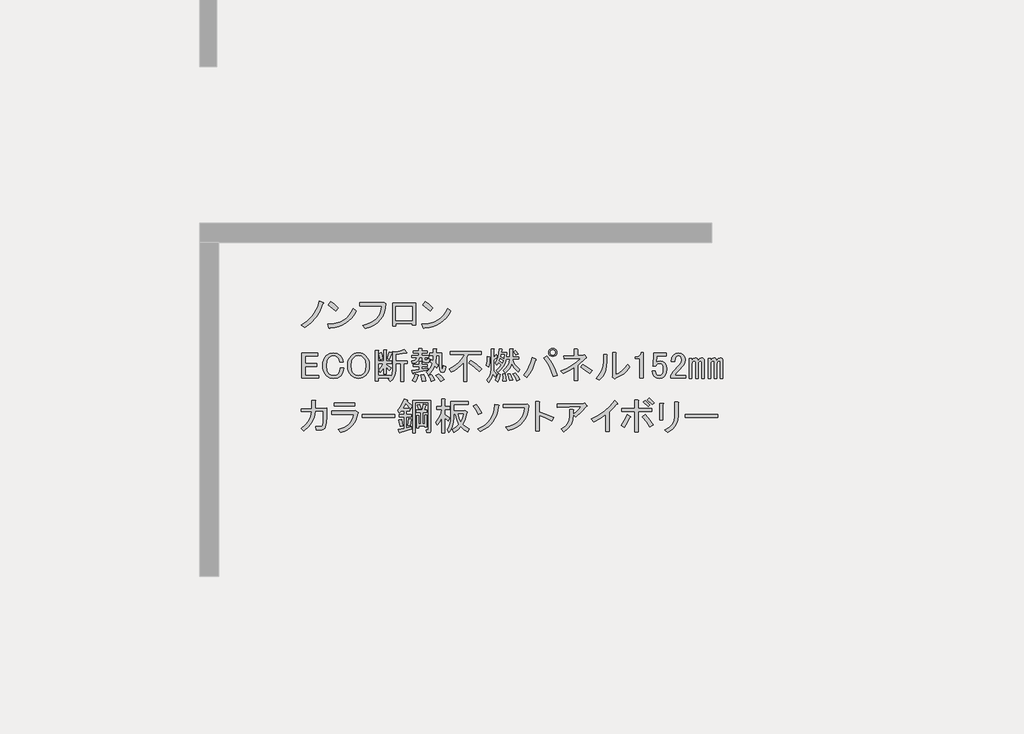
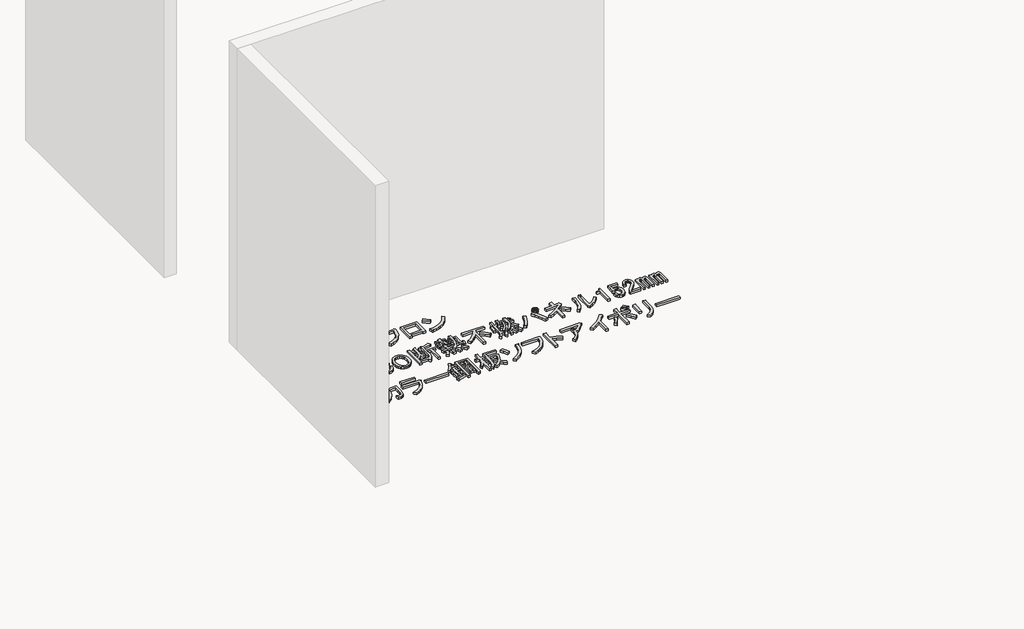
# One storey, part 35 of 117: 1 proxy.
"""IFC4 building model written with IfcOpenShell, lengths in millimetres."""

from ifc_helpers import new_model, si_unit, frame, origin, place, context, project, spatial, polyline, outline, extrude, element, save

model = new_model("IFC4")

# Units and contexts
model_context = context("Model", 3, world=origin())
ifc_project = project(units=[si_unit("LENGTHUNIT", "METRE", prefix="MILLI")], contexts=[model_context])

# Site, building, storey
site = spatial("IfcSite", under=ifc_project)
building = spatial("IfcBuilding", under=site)
storey = spatial("IfcBuildingStorey", under=building, Name="レベル 1", Elevation=500.0)

# Proxy
placement = place(None, origin())
element("IfcBuildingElementProxy", 1, Name="200㎜\u3000MS Pゴシック", ObjectType="200㎜\u3000MS Pゴシック", at=placement, inside=storey, context=model_context, shape_type="SweptSolid", body=[
    extrude(outline(polyline([(24969.6706985, -16633.0496882), (24944.0952502, -16692.8215225), (24915.646156, -16738.7998566), (24873.9782907, -16784.2034615), (24824.8389462, -16821.560858), (24797.2519457, -16799.7211493), (24844.9544673, -16769.2605029), (24884.6107805, -16730.7536481), (24901.9963381, -16706.8305462), (24917.3703435, -16678.7406577), (24930.7327969, -16646.4839827), (24942.0836981, -16610.0605212), (24973.1190736, -16623.8540214), (24976.2800841, -16628.4518548), (24969.6706985, -16633.0496882)])), frame((0.0, 0.0, 500.0), z_axis=(0.0, 0.0, 1.0), x_axis=(1.0, 0.0, 0.0)), (0.0, 0.0, 1.0), 25.0),
    extrude(outline(polyline([(25069.3977052, -16688.2236891), (25010.7753292, -16641.0958967), (25030.3161212, -16616.9572713), (25057.6157571, -16636.7854279), (25091.2374138, -16666.3839804), (25069.3977052, -16688.2236891)])), frame((0.0, 0.0, 500.0), z_axis=(0.0, 0.0, 1.0), x_axis=(1.0, 0.0, 0.0)), (0.0, 0.0, 1.0), 25.0),
    extrude(outline(polyline([(25231.4713328, -16688.2236891), (25214.947869, -16717.965924), (25195.8381239, -16743.9724192), (25174.1420975, -16766.2431748), (25149.8597898, -16784.7781907), (25122.9912008, -16799.577467), (25093.5363306, -16810.6410036), (25061.495179, -16817.9688006), (25026.8677461, -16821.560858), (25021.1204544, -16829.6070664), (25015.3731626, -16823.8597747), (25006.1774958, -16793.9738575), (25042.0082679, -16791.2977748), (25074.7857912, -16784.9937141), (25104.5100658, -16775.0616756), (25131.1810916, -16761.5016591), (25154.7988687, -16744.3136646), (25175.363397, -16723.4976923), (25192.8746766, -16699.053742), (25207.3327074, -16670.9818138), (25231.4713328, -16688.2236891)])), frame((0.0, 0.0, 500.0), z_axis=(0.0, 0.0, 1.0), x_axis=(1.0, 0.0, 0.0)), (0.0, 0.0, 1.0), 25.0),
    extrude(outline(polyline([(25282.2314136, -16803.1695243), (25316.014713, -16793.4889298), (25345.5234641, -16781.1142922), (25370.757667, -16766.0456116), (25391.7173217, -16748.282888), (25408.402428, -16727.8261214), (25420.8129862, -16704.6753118), (25428.9489961, -16678.8304591), (25432.8104577, -16650.2915635), (25260.3917049, -16650.2915635), (25260.3917049, -16625.0034798), (25435.1093744, -16625.0034798), (25451.2017914, -16621.5551047), (25463.8458332, -16633.0496882), (25460.325617, -16669.5449909), (25452.0638851, -16702.5919185), (25439.0606375, -16732.1904711), (25421.3158742, -16758.3406486), (25398.8295952, -16781.042451), (25371.6018005, -16800.2958784), (25339.6324901, -16816.1009308), (25302.921664, -16828.4576081), (25282.2314136, -16803.1695243)])), frame((0.0, 0.0, 500.0), z_axis=(0.0, 0.0, 1.0), x_axis=(1.0, 0.0, 0.0)), (0.0, 0.0, 1.0), 25.0),
    extrude(outline(polyline([(25696.955987, -16802.020066), (25670.5184449, -16802.020066), (25670.5184449, -16789.3760241), (25542.9285679, -16789.3760241), (25542.9285679, -16807.7673577), (25516.4910258, -16807.7673577), (25516.4910258, -16628.4518548), (25696.955987, -16628.4518548), (25696.955987, -16802.020066)]), holes=[polyline([(25542.9285679, -16653.7399386), (25542.9285679, -16764.0879404), (25670.5184449, -16764.0879404), (25670.5184449, -16653.7399386), (25542.9285679, -16653.7399386)])]), frame((0.0, 0.0, 500.0), z_axis=(0.0, 0.0, 1.0), x_axis=(1.0, 0.0, 0.0)), (0.0, 0.0, 1.0), 25.0),
    extrude(outline(polyline([(25973.0099049, -16688.2236891), (25956.4864411, -16717.965924), (25937.376696, -16743.9724192), (25915.6806696, -16766.2431748), (25891.3983619, -16784.7781907), (25864.5297729, -16799.577467), (25835.0749026, -16810.6410036), (25803.0337511, -16817.9688006), (25768.4063182, -16821.560858), (25762.6590264, -16829.6070664), (25756.9117347, -16823.8597747), (25747.7160679, -16793.9738575), (25783.5468399, -16791.2977748), (25816.3243633, -16784.9937141), (25846.0486378, -16775.0616756), (25872.7196637, -16761.5016591), (25896.3374407, -16744.3136646), (25916.9019691, -16723.4976923), (25934.4132486, -16699.053742), (25948.8712795, -16670.9818138), (25973.0099049, -16688.2236891)])), frame((0.0, 0.0, 500.0), z_axis=(0.0, 0.0, 1.0), x_axis=(1.0, 0.0, 0.0)), (0.0, 0.0, 1.0), 25.0),
    extrude(outline(polyline([(25810.9362772, -16688.2236891), (25752.3139013, -16641.0958967), (25771.8546933, -16616.9572713), (25799.1543291, -16636.7854279), (25832.7759859, -16666.3839804), (25810.9362772, -16688.2236891)])), frame((0.0, 0.0, 500.0), z_axis=(0.0, 0.0, 1.0), x_axis=(1.0, 0.0, 0.0)), (0.0, 0.0, 1.0), 25.0),
    extrude(outline(polyline([(24802.9992375, -17021.5551047), (24929.4396562, -17021.5551047), (24929.4396562, -17043.3948134), (24829.4367796, -17043.3948134), (24829.4367796, -17104.316106), (24922.5429061, -17104.316106), (24922.5429061, -17126.1558147), (24829.4367796, -17126.1558147), (24829.4367796, -17196.2727742), (24935.186948, -17196.2727742), (24935.186948, -17218.1124829), (24802.9992375, -17218.1124829), (24802.9992375, -17021.5551047)])), frame((0.0, 0.0, 500.0), z_axis=(0.0, 0.0, 1.0), x_axis=(1.0, 0.0, 0.0)), (0.0, 0.0, 1.0), 25.0),
    extrude(outline(polyline([(24967.2798252, -17120.408523), (24969.0758538, -17096.485421), (24974.4639399, -17075.2922827), (24983.4440832, -17056.8291079), (24996.016284, -17041.0958967), (25021.0170031, -17024.7161152), (25052.3397432, -17019.256188), (25083.0877541, -17024.141386), (25106.3642858, -17038.79698), (25122.1693381, -17062.3608762), (25128.2039944, -17091.6720642), (25100.616994, -17091.6720642), (25095.731796, -17070.4070847), (25085.6740354, -17054.8893969), (25070.4437123, -17044.5442717), (25052.3397432, -17041.0958967), (25032.7989512, -17045.1190009), (25015.5570759, -17057.1883136), (25006.5050914, -17068.8984206), (25000.0393882, -17083.3384911), (24994.8668256, -17120.408523), (25000.0393882, -17157.4785548), (25006.5050914, -17171.9186254), (25015.5570759, -17183.6287323), (25032.2242221, -17194.8359513), (25052.3397432, -17198.5716909), (25072.742629, -17195.4106804), (25087.9729521, -17185.927649), (25100.0422648, -17166.3868571), (25104.0653691, -17139.949315), (25131.6523695, -17139.949315), (25125.3303486, -17174.7204301), (25118.2899162, -17188.8731361), (25108.6632025, -17200.8706076), (25097.8151893, -17209.4197041), (25084.8119417, -17215.5262016), (25052.3397432, -17220.4113996), (25021.0170031, -17214.9514724), (24996.016284, -17198.5716909), (24983.4440832, -17182.9103209), (24974.4639399, -17164.6626695), (24969.0758538, -17143.8287369), (24967.2798252, -17120.408523)])), frame((0.0, 0.0, 500.0), z_axis=(0.0, 0.0, 1.0), x_axis=(1.0, 0.0, 0.0)), (0.0, 0.0, 1.0), 25.0),
    extrude(outline(polyline([(25162.6417667, -17119.2590646), (25164.3659542, -17096.4135799), (25169.5385168, -17076.1543764), (25178.1594544, -17058.4814543), (25190.2287671, -17043.3948134), (25202.9446501, -17032.8341648), (25216.9536738, -17025.2908443), (25232.2558381, -17020.7648521), (25248.8511431, -17019.256188), (25265.446448, -17020.7648521), (25280.7486123, -17025.2908443), (25294.757636, -17032.8341648), (25307.473519, -17043.3948134), (25319.5428317, -17058.4814543), (25328.1637694, -17076.1543764), (25333.336332, -17096.4135799), (25335.0605195, -17119.2590646), (25333.336332, -17142.1045494), (25328.1637694, -17162.3637528), (25319.5428317, -17180.036675), (25307.473519, -17195.1233159), (25294.757636, -17205.6839645), (25280.7486123, -17213.2272849), (25265.446448, -17217.7532772), (25248.8511431, -17219.2619413), (25232.2558381, -17217.7532772), (25216.9536738, -17213.2272849), (25202.9446501, -17205.6839645), (25190.2287671, -17195.1233159), (25178.1594544, -17180.036675), (25169.5385168, -17162.3637528), (25164.3659542, -17142.1045494), (25162.6417667, -17119.2590646)]), holes=[polyline([(25248.8511431, -17041.0958967), (25228.1608927, -17045.4063655), (25209.7695591, -17058.337772), (25201.2204626, -17069.4731498), (25195.1139651, -17083.3384911), (25190.2287671, -17119.2590646), (25195.1139651, -17155.1796381), (25201.2204626, -17169.0449795), (25209.7695591, -17180.1803573), (25228.1608927, -17193.1117637), (25248.8511431, -17197.4222326), (25269.5413934, -17193.1117637), (25287.932727, -17180.1803573), (25296.4818235, -17169.0449795), (25302.588321, -17155.1796381), (25307.473519, -17119.2590646), (25302.588321, -17083.3384911), (25296.4818235, -17069.4731498), (25287.932727, -17058.337772), (25269.5413934, -17045.4063655), (25248.8511431, -17041.0958967)])]), frame((0.0, 0.0, 500.0), z_axis=(0.0, 0.0, 1.0), x_axis=(1.0, 0.0, 0.0)), (0.0, 0.0, 1.0), 25.0),
    extrude(outline(polyline([(25473.8691101, -17065.2345221), (25491.1109854, -17012.3594379), (25511.8012357, -17018.1067296), (25513.5254232, -17021.2677401), (25509.502319, -17023.8540214), (25492.2604437, -17072.1312722), (25473.8691101, -17065.2345221)])), frame((0.0, 0.0, 500.0), z_axis=(0.0, 0.0, 1.0), x_axis=(1.0, 0.0, 0.0)), (0.0, 0.0, 1.0), 25.0),
    extrude(outline(polyline([(25627.8965292, -17016.9572713), (25626.1723417, -17021.5551047), (25618.7008624, -17019.256188), (25541.6871528, -17031.9002299), (25541.6871528, -17081.326939), (25633.643821, -17081.326939), (25633.643821, -17103.1666477), (25602.6084455, -17103.1666477), (25602.6084455, -17243.4005666), (25579.6192785, -17243.4005666), (25579.6192785, -17103.1666477), (25541.6871528, -17103.1666477), (25541.6871528, -17152.5933568), (25539.1008716, -17180.3958807), (25531.3420277, -17205.1810764), (25518.4106212, -17226.948944), (25500.3066522, -17245.6994833), (25483.0647769, -17226.1586914), (25493.4099021, -17216.9630245), (25403.7521506, -17216.9630245), (25403.7521506, -17238.8027332), (25380.7629836, -17238.8027332), (25380.7629836, -16999.715396), (25402.6026922, -16999.715396), (25407.4878902, -17002.0143127), (25403.7521506, -17006.6121461), (25403.7521506, -17082.4763974), (25446.2821096, -17082.4763974), (25446.2821096, -16995.1175626), (25464.6734433, -16995.1175626), (25469.5586413, -16997.4164793), (25465.8229016, -17002.0143127), (25465.8229016, -17082.4763974), (25509.502319, -17082.4763974), (25509.502319, -17100.867731), (25465.8229016, -17100.867731), (25465.8229016, -17110.0633978), (25506.0539439, -17136.5009399), (25492.2604437, -17158.3406486), (25465.8229016, -17131.9031065), (25465.8229016, -17184.7781907), (25446.2821096, -17184.7781907), (25446.2821096, -17136.5009399), (25433.0633386, -17156.3290965), (25418.6951092, -17172.1341488), (25406.0510673, -17153.7428152), (25427.890776, -17129.6041898), (25445.1326513, -17100.867731), (25403.7521506, -17100.867731), (25403.7521506, -17195.1233159), (25501.4561105, -17195.1233159), (25501.4561105, -17208.9168161), (25514.387517, -17184.7781907), (25518.6979858, -17151.4438985), (25518.6979858, -17006.6121461), (25540.5376945, -17012.3594379), (25576.7456326, -17004.8879586), (25607.2062789, -16991.6691875), (25627.8965292, -17016.9572713)])), frame((0.0, 0.0, 500.0), z_axis=(0.0, 0.0, 1.0), x_axis=(1.0, 0.0, 0.0)), (0.0, 0.0, 1.0), 25.0),
    extrude(outline(polyline([(25419.8445675, -17073.2807305), (25407.2005257, -17022.7045631), (25426.7413176, -17015.8078129), (25434.5001615, -17039.9464383), (25439.3853595, -17066.3839804), (25419.8445675, -17073.2807305)])), frame((0.0, 0.0, 500.0), z_axis=(0.0, 0.0, 1.0), x_axis=(1.0, 0.0, 0.0)), (0.0, 0.0, 1.0), 25.0),
    extrude(outline(polyline([(25763.5326148, -17189.3760241), (25773.5903754, -17216.67566), (25778.4755734, -17238.8027332), (25749.7391146, -17244.550025), (25747.1528333, -17222.9976809), (25739.3939894, -17192.8243992), (25763.5326148, -17189.3760241)])), frame((0.0, 0.0, 500.0), z_axis=(0.0, 0.0, 1.0), x_axis=(1.0, 0.0, 0.0)), (0.0, 0.0, 1.0), 25.0),
    extrude(outline(polyline([(25819.856074, -17242.2511083), (25811.522501, -17217.5377537), (25798.0163654, -17196.2727742), (25818.7066157, -17188.2265657), (25835.6611264, -17209.7789098), (25847.4430745, -17233.0554415), (25819.856074, -17242.2511083)])), frame((0.0, 0.0, 500.0), z_axis=(0.0, 0.0, 1.0), x_axis=(1.0, 0.0, 0.0)), (0.0, 0.0, 1.0), 25.0),
    extrude(outline(polyline([(25718.7037391, -17193.9738575), (25722.1521141, -17198.8590555), (25716.4048224, -17202.020066), (25706.6344264, -17227.5955143), (25695.714572, -17246.8489417), (25672.725405, -17235.3543582), (25685.3694469, -17211.790462), (25695.714572, -17184.7781907), (25718.7037391, -17193.9738575)])), frame((0.0, 0.0, 500.0), z_axis=(0.0, 0.0, 1.0), x_axis=(1.0, 0.0, 0.0)), (0.0, 0.0, 1.0), 25.0),
    extrude(outline(polyline([(25750.8885729, -17057.1883136), (25725.6004892, -17057.1883136), (25721.0026558, -17074.6457123), (25710.6575306, -17087.9363245), (25694.5651137, -17097.0601502), (25672.725405, -17102.0171893), (25668.1275716, -17082.4763974), (25693.4156553, -17073.8554597), (25700.8871346, -17066.5276627), (25704.9102388, -17057.1883136), (25669.2770299, -17057.1883136), (25669.2770299, -17038.79698), (25723.3015725, -17038.79698), (25723.3015725, -17021.5551047), (25679.6221551, -17021.5551047), (25679.6221551, -17003.1637711), (25723.3015725, -17003.1637711), (25723.3015725, -16984.7724374), (25745.1412812, -16984.7724374), (25750.0264792, -16987.0713541), (25746.2907395, -16991.6691875), (25746.2907395, -17003.1637711), (25788.8206985, -17003.1637711), (25788.8206985, -17021.5551047), (25746.2907395, -17021.5551047), (25746.2907395, -17038.79698), (25799.1658237, -17038.79698), (25799.1658237, -17057.1883136), (25770.4293649, -17057.1883136), (25770.4293649, -17069.8323555), (25771.8661878, -17075.0049181), (25776.1766567, -17076.7291056), (25786.5217818, -17076.7291056), (25790.2575215, -17073.5680951), (25789.9701569, -17064.0850637), (25809.5109489, -17066.3839804), (25806.637303, -17087.9363245), (25801.3210581, -17093.3244106), (25793.4185319, -17095.1204392), (25769.2799066, -17095.1204392), (25755.4864063, -17090.2352412), (25750.8885729, -17075.5796472), (25750.8885729, -17057.1883136)])), frame((0.0, 0.0, 500.0), z_axis=(0.0, 0.0, 1.0), x_axis=(1.0, 0.0, 0.0)), (0.0, 0.0, 1.0), 25.0),
    extrude(outline(polyline([(25881.9268251, -17039.9464383), (25860.0871164, -17039.9464383), (25855.489283, -17097.4193559), (25875.0300749, -17115.8106896), (25864.6849498, -17137.6503983), (25848.5925328, -17121.5579813), (25829.3391054, -17159.2027424), (25799.1658237, -17191.6749408), (25781.9239484, -17170.9846905), (25797.0105893, -17159.0590601), (25810.085678, -17143.9724192), (25821.1492147, -17125.7247679), (25830.2011992, -17104.316106), (25812.9593239, -17089.3731475), (25821.0055324, -17072.1312722), (25834.7990326, -17082.4763974), (25837.0979493, -17039.9464383), (25809.5109489, -17039.9464383), (25809.5109489, -17021.5551047), (25837.0979493, -17021.5551047), (25837.0979493, -16987.0713541), (25858.937658, -16987.0713541), (25863.822856, -16989.3702708), (25860.0871164, -16993.9681043), (25860.0871164, -17021.5551047), (25901.467617, -17021.5551047), (25901.467617, -17118.1096063), (25904.9159921, -17142.2482317), (25908.1488437, -17144.2597838), (25910.9506484, -17141.0987733), (25915.2611173, -17119.2590646), (25934.8019092, -17126.1558147), (25930.275917, -17152.9525626), (25922.445232, -17168.9731384), (25911.3098542, -17174.2175421), (25896.8697836, -17168.6857738), (25890.3322393, -17161.3579768), (25885.6625647, -17149.719711), (25881.9268251, -17113.5117729), (25881.9268251, -17039.9464383)])), frame((0.0, 0.0, 500.0), z_axis=(0.0, 0.0, 1.0), x_axis=(1.0, 0.0, 0.0)), (0.0, 0.0, 1.0), 25.0),
    extrude(outline(polyline([(25680.7716134, -17179.0308989), (25678.7600613, -17183.9160969), (25675.0243217, -17182.479274), (25669.2770299, -17158.3406486), (25724.4510308, -17150.2944401), (25724.4510308, -17127.3052731), (25680.7716134, -17127.3052731), (25680.7716134, -17108.9139395), (25724.4510308, -17108.9139395), (25724.4510308, -17085.9247724), (25742.8423645, -17085.9247724), (25747.7275625, -17088.2236891), (25743.9918228, -17092.8215225), (25743.9918228, -17108.9139395), (25788.8206985, -17108.9139395), (25788.8206985, -17127.3052731), (25743.9918228, -17127.3052731), (25743.9918228, -17146.8460651), (25794.5679903, -17137.6503983), (25794.5679903, -17153.7428152), (25680.7716134, -17179.0308989)])), frame((0.0, 0.0, 500.0), z_axis=(0.0, 0.0, 1.0), x_axis=(1.0, 0.0, 0.0)), (0.0, 0.0, 1.0), 25.0),
    extrude(outline(polyline([(25878.47845, -17183.6287323), (25903.1918046, -17204.8937119), (25922.1578674, -17229.6070664), (25895.7203253, -17244.550025), (25876.4668979, -17214.9514724), (25857.7881997, -17195.1233159), (25878.47845, -17183.6287323)])), frame((0.0, 0.0, 500.0), z_axis=(0.0, 0.0, 1.0), x_axis=(1.0, 0.0, 0.0)), (0.0, 0.0, 1.0), 25.0),
    extrude(outline(polyline([(26196.8784135, -17167.5363154), (26157.7968295, -17129.3168252), (26116.4163289, -17099.7182726), (26132.5087458, -17079.0280223), (26176.1881632, -17107.1897519), (26217.5686638, -17145.6966067), (26196.8784135, -17167.5363154)])), frame((0.0, 0.0, 500.0), z_axis=(0.0, 0.0, 1.0), x_axis=(1.0, 0.0, 0.0)), (0.0, 0.0, 1.0), 25.0),
    extrude(outline(polyline([(25970.4351182, -17006.6121461), (26211.8213721, -17006.6121461), (26211.8213721, -17031.9002299), (26111.8184955, -17031.9002299), (26101.4733703, -17056.0388553), (26101.4733703, -17242.2511083), (26075.0358282, -17242.2511083), (26075.0358282, -17095.1204392), (26054.2018956, -17118.3969709), (26030.7816816, -17138.7998566), (26004.7751864, -17156.3290965), (25976.1824099, -17170.9846905), (25960.089993, -17144.5471484), (25999.674465, -17124.1442626), (26033.3679629, -17098.5688143), (26061.1704868, -17067.8208034), (26083.0820367, -17031.9002299), (25970.4351182, -17031.9002299), (25970.4351182, -17006.6121461)])), frame((0.0, 0.0, 500.0), z_axis=(0.0, 0.0, 1.0), x_axis=(1.0, 0.0, 0.0)), (0.0, 0.0, 1.0), 25.0),
    extrude(outline(polyline([(26384.2401249, -17241.1016499), (26384.8148541, -17214.0893787), (26381.9412082, -17185.927649), (26401.4820002, -17184.7781907), (26407.8040211, -17210.9283682), (26408.3787503, -17238.8027332), (26384.2401249, -17241.1016499)])), frame((0.0, 0.0, 500.0), z_axis=(0.0, 0.0, 1.0), x_axis=(1.0, 0.0, 0.0)), (0.0, 0.0, 1.0), 25.0),
    extrude(outline(polyline([(26364.6993329, -17189.3760241), (26356.0783953, -17219.8366704), (26341.7101659, -17246.8489417), (26322.1693739, -17234.2048998), (26336.2502387, -17209.4915453), (26346.3079993, -17181.3298156), (26364.6993329, -17189.3760241)])), frame((0.0, 0.0, 500.0), z_axis=(0.0, 0.0, 1.0), x_axis=(1.0, 0.0, 0.0)), (0.0, 0.0, 1.0), 25.0),
    extrude(outline(polyline([(26279.6394149, -17051.4410219), (26284.2372483, -17053.7399386), (26279.6394149, -17058.337772), (26278.4899565, -17097.9940851), (26272.7426647, -17131.9031065), (26254.3513311, -17119.2590646), (26260.0986229, -17084.7753141), (26261.2480812, -17047.9926468), (26279.6394149, -17051.4410219)])), frame((0.0, 0.0, 500.0), z_axis=(0.0, 0.0, 1.0), x_axis=(1.0, 0.0, 0.0)), (0.0, 0.0, 1.0), 25.0),
    extrude(outline(polyline([(26331.3650407, -17033.0496882), (26340.5607075, -17050.2915635), (26341.9975305, -17056.3262199), (26337.1123325, -17056.0388553), (26310.6747904, -17076.7291056), (26310.6747904, -17160.6395653), (26324.4682906, -17172.9962426), (26335.9628741, -17189.3760241), (26323.3188322, -17210.0662744), (26304.9274986, -17184.7781907), (26293.1455505, -17220.6987642), (26271.5932064, -17250.2973168), (26256.6502478, -17231.9059831), (26271.7368887, -17213.1554438), (26282.5130607, -17192.5370346), (26288.978764, -17170.0507556), (26291.1339984, -17145.6966067), (26291.1339984, -16988.2208125), (26309.525332, -16988.2208125), (26314.41053, -16990.5197292), (26310.6747904, -16995.1175626), (26310.6747904, -17053.7399386), (26331.3650407, -17033.0496882)])), frame((0.0, 0.0, 500.0), z_axis=(0.0, 0.0, 1.0), x_axis=(1.0, 0.0, 0.0)), (0.0, 0.0, 1.0), 25.0),
    extrude(outline(polyline([(26481.9440848, -17002.0143127), (26503.7837935, -17026.1529381), (26486.5419182, -17037.6475216), (26479.9325327, -17026.1529381), (26467.0011262, -17012.3594379), (26481.9440848, -17002.0143127)])), frame((0.0, 0.0, 500.0), z_axis=(0.0, 0.0, 1.0), x_axis=(1.0, 0.0, 0.0)), (0.0, 0.0, 1.0), 25.0),
    extrude(outline(polyline([(26492.28921, -17238.8027332), (26479.0704389, -17210.6410036), (26462.4032928, -17185.927649), (26480.7946265, -17177.8814406), (26499.7606893, -17200.8706076), (26515.278377, -17228.4576081), (26492.28921, -17238.8027332)])), frame((0.0, 0.0, 500.0), z_axis=(0.0, 0.0, 1.0), x_axis=(1.0, 0.0, 0.0)), (0.0, 0.0, 1.0), 25.0),
    extrude(outline(polyline([(26442.8625008, -17183.6287323), (26461.2538345, -17233.0554415), (26437.1152091, -17237.6532749), (26423.3217089, -17187.0771074), (26442.8625008, -17183.6287323)])), frame((0.0, 0.0, 500.0), z_axis=(0.0, 0.0, 1.0), x_axis=(1.0, 0.0, 0.0)), (0.0, 0.0, 1.0), 25.0),
    extrude(outline(polyline([(26503.7837935, -17168.6857738), (26473.0357826, -17138.2251274), (26452.0581677, -17104.316106), (26443.6527535, -17126.4431793), (26432.2300111, -17145.6966067), (26417.7899405, -17162.0763882), (26400.3325418, -17175.5825239), (26386.5390416, -17157.1911902), (26407.3729742, -17138.2969686), (26422.7469797, -17117.2475125), (26432.661058, -17094.042822), (26437.1152091, -17068.6828971), (26408.3787503, -17068.6828971), (26400.404383, -17099.2872258), (26386.8264062, -17126.7305439), (26367.6448199, -17151.0128516), (26342.8596242, -17172.1341488), (26330.2155823, -17156.0417319), (26356.0783953, -17134.4893878), (26371.596083, -17113.5117729), (26349.7563743, -17093.9709809), (26335.9628741, -17114.6612312), (26322.1693739, -17099.7182726), (26334.5978923, -17080.6803687), (26344.2964472, -17055.7514907), (26351.2650384, -17024.9316386), (26355.5036661, -16988.2208125), (26376.1939164, -16990.5197292), (26379.6422915, -16993.1060105), (26373.8949997, -16996.267021), (26371.596083, -17014.6583546), (26415.2755004, -17014.6583546), (26411.8271253, -17050.2915635), (26437.1152091, -17050.2915635), (26437.1152091, -16988.2208125), (26458.9549178, -16988.2208125), (26463.8401158, -16990.5197292), (26460.1043761, -16995.1175626), (26460.1043761, -17050.2915635), (26509.5310853, -17050.2915635), (26509.5310853, -17068.6828971), (26460.1043761, -17068.6828971), (26466.6419205, -17090.4507647), (26478.2083452, -17110.9254916), (26494.8036501, -17130.1070778), (26516.4278354, -17147.9955234), (26503.7837935, -17168.6857738)]), holes=[polyline([(26379.6422915, -17098.5688143), (26386.5390416, -17079.0280223), (26361.2509579, -17062.9356054), (26355.5036661, -17080.1774807), (26379.6422915, -17098.5688143)]), polyline([(26369.2971663, -17033.0496882), (26365.8487913, -17049.1421052), (26391.136875, -17062.9356054), (26395.7347084, -17033.0496882), (26369.2971663, -17033.0496882)])]), frame((0.0, 0.0, 500.0), z_axis=(0.0, 0.0, 1.0), x_axis=(1.0, 0.0, 0.0)), (0.0, 0.0, 1.0), 25.0),
    extrude(outline(polyline([(26729.0776305, -17042.245355), (26755.730696, -17078.9561812), (26778.2169751, -17116.6727833), (26796.5364675, -17155.3951616), (26810.6891735, -17195.1233159), (26779.653798, -17205.468441), (26764.2079514, -17162.3637528), (26746.6068704, -17123.856898), (26726.8505549, -17089.9478766), (26704.9390051, -17060.6366887), (26729.0776305, -17042.245355)])), frame((0.0, 0.0, 500.0), z_axis=(0.0, 0.0, 1.0), x_axis=(1.0, 0.0, 0.0)), (0.0, 0.0, 1.0), 25.0),
    extrude(outline(polyline([(26641.7187958, -17068.6828971), (26645.7419, -17074.1428243), (26639.419879, -17079.0280223), (26627.4942486, -17114.4457078), (26612.4076078, -17148.282888), (26594.1599564, -17180.539563), (26572.7512946, -17211.2157328), (26546.3137525, -17193.9738575), (26569.518443, -17162.5074351), (26588.556347, -17129.0294606), (26603.4274644, -17093.539934), (26614.1317953, -17056.0388553), (26641.7187958, -17068.6828971)])), frame((0.0, 0.0, 500.0), z_axis=(0.0, 0.0, 1.0), x_axis=(1.0, 0.0, 0.0)), (0.0, 0.0, 1.0), 25.0),
    extrude(outline(polyline([(26775.0559646, -17047.9926468), (26762.4119227, -17045.6937301), (26752.0667975, -17038.79698), (26745.1700474, -17028.4518548), (26742.8711307, -17015.8078129), (26745.1700474, -17003.1637711), (26752.0667975, -16992.8186459), (26762.4119227, -16985.9218958), (26775.0559646, -16983.6229791), (26787.7000065, -16985.9218958), (26798.0451316, -16992.8186459), (26804.9418817, -17003.1637711), (26807.2407984, -17015.8078129), (26804.9418817, -17028.4518548), (26798.0451316, -17038.79698), (26787.7000065, -17045.6937301), (26775.0559646, -17047.9926468)]), holes=[polyline([(26775.0559646, -17036.4980633), (26783.3895376, -17035.0612403), (26789.9989232, -17030.7507715), (26794.309392, -17024.141386), (26795.7462149, -17015.8078129), (26794.309392, -17007.4742399), (26789.9989232, -17000.8648544), (26783.3895376, -16996.5543855), (26775.0559646, -16995.1175626), (26766.7223915, -16996.5543855), (26760.113006, -17000.8648544), (26755.8025372, -17007.4742399), (26754.3657143, -17015.8078129), (26755.8025372, -17024.141386), (26760.113006, -17030.7507715), (26766.7223915, -17035.0612403), (26775.0559646, -17036.4980633)])]), frame((0.0, 0.0, 500.0), z_axis=(0.0, 0.0, 1.0), x_axis=(1.0, 0.0, 0.0)), (0.0, 0.0, 1.0), 25.0),
    extrude(outline(polyline([(27018.7411352, -17037.6475216), (27025.6378853, -17035.3486049), (27038.2819272, -17052.5904802), (27039.4313856, -17058.6251366), (27033.6840938, -17060.6366887), (26970.4638844, -17116.9601479), (26970.4638844, -17237.6532749), (26944.0263423, -17237.6532749), (26944.0263423, -17135.3514816), (26903.7953, -17159.4901069), (26858.9664243, -17181.3298156), (26839.4256323, -17160.6395653), (26884.9729195, -17141.1706145), (26926.2097379, -17118.3969709), (26963.1360874, -17092.3186345), (26995.7519682, -17062.9356054), (26865.8631744, -17068.6828971), (26862.4147993, -17043.3948134), (26944.0263423, -17041.0958967), (26944.0263423, -16989.3702708), (26967.0155094, -16989.3702708), (26973.0501657, -16992.8186459), (26970.4638844, -16998.5659377), (26970.4638844, -17039.9464383), (27018.7411352, -17037.6475216)])), frame((0.0, 0.0, 500.0), z_axis=(0.0, 0.0, 1.0), x_axis=(1.0, 0.0, 0.0)), (0.0, 0.0, 1.0), 25.0),
    extrude(outline(polyline([(27064.7194693, -17181.3298156), (27027.6494375, -17152.0186277), (26994.6025098, -17130.7536481), (27011.8443851, -17108.9139395), (27050.6386045, -17132.1904711), (27084.2602613, -17158.3406486), (27064.7194693, -17181.3298156)])), frame((0.0, 0.0, 500.0), z_axis=(0.0, 0.0, 1.0), x_axis=(1.0, 0.0, 0.0)), (0.0, 0.0, 1.0), 25.0),
    extrude(outline(polyline([(27271.7139293, -17188.2265657), (27296.4991251, -17176.0135708), (27320.2785447, -17158.9153778), (27343.0521883, -17136.9319868), (27364.8200559, -17110.0633978), (27380.9124728, -17131.9031065), (27357.6359412, -17159.7056304), (27331.4857636, -17183.3413678), (27302.4619403, -17202.8103186), (27270.564471, -17218.1124829), (27261.3688042, -17222.7103163), (27242.9774705, -17208.9168161), (27245.2763872, -17203.1695243), (27245.2763872, -17018.1067296), (27269.4150126, -17018.1067296), (27275.1623044, -17021.5551047), (27271.7139293, -17027.3023965), (27271.7139293, -17188.2265657)])), frame((0.0, 0.0, 500.0), z_axis=(0.0, 0.0, 1.0), x_axis=(1.0, 0.0, 0.0)), (0.0, 0.0, 1.0), 25.0),
    extrude(outline(polyline([(27117.6865102, -17219.2619413), (27142.8309116, -17190.0225944), (27160.7911984, -17157.4785548), (27171.5673704, -17121.6298225), (27175.1594278, -17082.4763974), (27175.1594278, -17030.7507715), (27199.2980532, -17030.7507715), (27205.0453449, -17034.1991466), (27201.5969699, -17039.9464383), (27201.5969699, -17081.326939), (27197.7893891, -17127.0897496), (27186.3666467, -17167.82368), (27167.3287427, -17203.5287301), (27140.6756772, -17234.2048998), (27117.6865102, -17219.2619413)])), frame((0.0, 0.0, 500.0), z_axis=(0.0, 0.0, 1.0), x_axis=(1.0, 0.0, 0.0)), (0.0, 0.0, 1.0), 25.0),
    extrude(outline(polyline([(27460.2250991, -17041.0958967), (27468.2713075, -17030.1760423), (27471.7196826, -17018.1067296), (27485.5131828, -17018.1067296), (27485.5131828, -17216.9630245), (27459.0756407, -17216.9630245), (27459.0756407, -17064.0850637), (27424.5918902, -17064.0850637), (27424.5918902, -17050.2915635), (27434.9370153, -17050.2915635), (27449.3052447, -17047.9926468), (27460.2250991, -17041.0958967)])), frame((0.0, 0.0, 500.0), z_axis=(0.0, 0.0, 1.0), x_axis=(1.0, 0.0, 0.0)), (0.0, 0.0, 1.0), 25.0),
    extrude(outline(polyline([(27569.4236425, -17021.5551047), (27668.2770608, -17021.5551047), (27668.2770608, -17043.3948134), (27591.2633512, -17043.3948134), (27591.2633512, -17046.8431884), (27587.8149762, -17089.3731475), (27586.6655178, -17096.2698976), (27602.1832056, -17085.9247724), (27618.8503517, -17082.4763974), (27639.8279666, -17086.212137), (27656.7824773, -17097.4193559), (27668.85179, -17117.2475125), (27672.8748942, -17144.5471484), (27667.7023316, -17179.0308989), (27661.2366284, -17192.8243992), (27652.1846439, -17204.3189827), (27634.0806748, -17216.3882954), (27611.9536015, -17220.4113996), (27590.9759866, -17216.67566), (27574.0214759, -17205.468441), (27561.9521632, -17186.7897428), (27555.6301423, -17160.6395653), (27582.0676844, -17160.6395653), (27586.0907886, -17179.3182635), (27593.5622679, -17191.6749408), (27601.3211118, -17196.8475034), (27610.8041432, -17198.5716909), (27623.1608205, -17196.5601388), (27632.6438519, -17190.5254825), (27642.1268833, -17173.5709718), (27645.2878938, -17147.9955234), (27642.7016125, -17123.856898), (27634.9427686, -17108.9139395), (27627.4712893, -17103.7413769), (27618.8503517, -17102.0171893), (27605.9189452, -17104.6034706), (27594.7117263, -17112.3623145), (27585.5160594, -17122.7074397), (27562.5268924, -17122.7074397), (27563.6763508, -17114.6612312), (27569.4236425, -17026.1529381), (27569.4236425, -17021.5551047)])), frame((0.0, 0.0, 500.0), z_axis=(0.0, 0.0, 1.0), x_axis=(1.0, 0.0, 0.0)), (0.0, 0.0, 1.0), 25.0),
    extrude(outline(polyline([(27707.3586448, -17088.2236891), (27711.9564782, -17056.900949), (27725.7499784, -17034.1991466), (27742.1297599, -17022.9919276), (27761.3831873, -17019.256188), (27784.0849898, -17022.9919276), (27801.6142296, -17034.1991466), (27812.8214486, -17050.8662927), (27816.5571882, -17070.9818138), (27812.2467194, -17096.8446268), (27799.3153129, -17119.2590646), (27765.9810207, -17157.1911902), (27747.5896871, -17177.8814406), (27733.7961869, -17196.2727742), (27820.0055633, -17196.2727742), (27820.0055633, -17218.1124829), (27702.7608114, -17218.1124829), (27702.7608114, -17198.5716909), (27708.7954677, -17184.7781907), (27722.3016033, -17166.3868571), (27769.4293958, -17114.6612312), (27784.0849898, -17093.3962517), (27788.9701878, -17070.9818138), (27786.6712711, -17058.337772), (27779.7745209, -17047.9926468), (27772.0156771, -17042.8200842), (27762.5326457, -17041.0958967), (27753.911708, -17042.8200842), (27746.4402287, -17047.9926468), (27736.9571973, -17064.3724283), (27733.7961869, -17088.2236891), (27707.3586448, -17088.2236891)])), frame((0.0, 0.0, 500.0), z_axis=(0.0, 0.0, 1.0), x_axis=(1.0, 0.0, 0.0)), (0.0, 0.0, 1.0), 25.0),
    extrude(outline(polyline([(27869.4322724, -17219.2619413), (27849.8914804, -17219.2619413), (27849.8914804, -17061.786147), (27869.4322724, -17061.786147), (27869.4322724, -17079.0280223), (27881.5015851, -17063.5103346), (27894.7203561, -17058.337772), (27903.916023, -17059.7745949), (27910.8127731, -17064.0850637), (27917.7095232, -17077.878564), (27930.6409296, -17063.22297), (27944.1470653, -17058.337772), (27952.4806383, -17059.7745949), (27959.0900239, -17064.0850637), (27964.2625864, -17072.7060014), (27965.986774, -17084.7753141), (27965.986774, -17219.2619413), (27946.445982, -17219.2619413), (27946.445982, -17095.1204392), (27943.8597007, -17085.6374078), (27936.1008568, -17082.4763974), (27925.7557317, -17087.0742308), (27919.7210753, -17095.6951684), (27917.7095232, -17105.4655644), (27917.7095232, -17219.2619413), (27898.1687312, -17219.2619413), (27898.1687312, -17095.1204392), (27895.5824499, -17085.6374078), (27887.823606, -17082.4763974), (27877.4784809, -17087.0742308), (27871.4438245, -17095.6951684), (27869.4322724, -17105.4655644), (27869.4322724, -17219.2619413)])), frame((0.0, 0.0, 500.0), z_axis=(0.0, 0.0, 1.0), x_axis=(1.0, 0.0, 0.0)), (0.0, 0.0, 1.0), 25.0),
    extrude(outline(polyline([(28091.2777343, -17058.337772), (28099.6113074, -17059.7745949), (28106.2206929, -17064.0850637), (28111.3932555, -17072.7060014), (28113.117443, -17084.7753141), (28113.117443, -17219.2619413), (28093.5766511, -17219.2619413), (28093.5766511, -17095.1204392), (28090.9903698, -17085.6374078), (28083.2315259, -17082.4763974), (28072.8864007, -17087.0742308), (28066.8517444, -17095.6951684), (28064.8401922, -17105.4655644), (28064.8401922, -17219.2619413), (28045.2994003, -17219.2619413), (28045.2994003, -17095.1204392), (28042.713119, -17085.6374078), (28034.9542751, -17082.4763974), (28024.6091499, -17087.0742308), (28018.5744936, -17095.6951684), (28016.5629415, -17105.4655644), (28016.5629415, -17219.2619413), (27997.0221495, -17219.2619413), (27997.0221495, -17061.786147), (28016.5629415, -17061.786147), (28016.5629415, -17079.0280223), (28028.6322542, -17063.5103346), (28041.8510252, -17058.337772), (28051.046692, -17059.7745949), (28057.9434421, -17064.0850637), (28064.8401922, -17077.878564), (28077.7715987, -17063.22297), (28091.2777343, -17058.337772)])), frame((0.0, 0.0, 500.0), z_axis=(0.0, 0.0, 1.0), x_axis=(1.0, 0.0, 0.0)), (0.0, 0.0, 1.0), 25.0),
    extrude(outline(polyline([(24973.1190736, -17476.7291056), (24907.5999475, -17479.0280223), (24899.3382156, -17525.293721), (24881.44977, -17566.3868571), (24853.9346107, -17602.3074306), (24816.7927377, -17633.0554415), (24797.2519457, -17613.5146495), (24832.2385843, -17585.2810787), (24857.8858738, -17553.4554506), (24874.1938142, -17518.0377651), (24881.1624054, -17479.0280223), (24799.5508624, -17481.326939), (24797.2519457, -17458.337772), (24882.3118638, -17456.0388553), (24882.3118638, -17391.6691875), (24906.4504892, -17391.6691875), (24913.3472393, -17395.1175626), (24908.7494059, -17400.8648544), (24908.7494059, -17456.0388553), (24999.5566157, -17452.5904802), (24999.5566157, -17523.856898), (24996.9703344, -17571.8467842), (24989.2114905, -17603.1695243), (24982.602105, -17613.2272849), (24973.1190736, -17620.4113996), (24960.7623963, -17624.7218684), (24945.5320731, -17626.1586914), (24917.9450727, -17626.1586914), (24914.4966976, -17597.4222326), (24944.3826148, -17599.7211493), (24958.4634796, -17596.8475034), (24966.2223235, -17588.2265657), (24971.3948861, -17562.938482), (24973.1190736, -17523.856898), (24973.1190736, -17476.7291056)])), frame((0.0, 0.0, 500.0), z_axis=(0.0, 0.0, 1.0), x_axis=(1.0, 0.0, 0.0)), (0.0, 0.0, 1.0), 25.0),
    extrude(outline(polyline([(25217.8617459, -17436.4980633), (25059.2364933, -17436.4980633), (25059.2364933, -17411.2099795), (25217.8617459, -17411.2099795), (25217.8617459, -17436.4980633)])), frame((0.0, 0.0, 500.0), z_axis=(0.0, 0.0, 1.0), x_axis=(1.0, 0.0, 0.0)), (0.0, 0.0, 1.0), 25.0),
    extrude(outline(polyline([(25087.9729521, -17622.7103163), (25137.6151847, -17604.3908238), (25157.8564279, -17592.2676303), (25175.0444223, -17578.1688052), (25189.179168, -17562.0943485), (25200.2606649, -17544.0442603), (25208.2889131, -17524.0185406), (25213.2639125, -17502.0171893), (25038.546243, -17502.0171893), (25038.546243, -17476.7291056), (25214.4133709, -17476.7291056), (25224.758496, -17473.2807305), (25245.4487464, -17485.9247724), (25248.3223922, -17491.3846996), (25243.1498297, -17496.2698976), (25237.0253719, -17523.7491363), (25227.8476653, -17548.7139349), (25215.6167101, -17571.1642933), (25200.332506, -17591.1002116), (25181.9950533, -17608.5216898), (25160.6043517, -17623.4287278), (25136.1604015, -17635.8213256), (25108.6632025, -17645.6994833), (25087.9729521, -17622.7103163)])), frame((0.0, 0.0, 500.0), z_axis=(0.0, 0.0, 1.0), x_axis=(1.0, 0.0, 0.0)), (0.0, 0.0, 1.0), 25.0),
    extrude(outline(polyline([(25276.8979269, -17527.3052731), (25276.8979269, -17502.0171893), (25533.2271394, -17502.0171893), (25533.2271394, -17527.3052731), (25276.8979269, -17527.3052731)])), frame((0.0, 0.0, 500.0), z_axis=(0.0, 0.0, 1.0), x_axis=(1.0, 0.0, 0.0)), (0.0, 0.0, 1.0), 25.0),
    extrude(outline(polyline([(25728.3591892, -17423.8540214), (25735.5433039, -17439.0843446), (25741.0032311, -17459.4872303), (25723.7613558, -17465.2345221), (25712.2667723, -17428.4518548), (25728.3591892, -17423.8540214)])), frame((0.0, 0.0, 500.0), z_axis=(0.0, 0.0, 1.0), x_axis=(1.0, 0.0, 0.0)), (0.0, 0.0, 1.0), 25.0),
    extrude(outline(polyline([(25781.2342734, -17425.0034798), (25783.8205547, -17428.4518548), (25777.7858984, -17431.9002299), (25765.1418565, -17469.8323555), (25785.8321068, -17469.8323555), (25785.8321068, -17488.2236891), (25754.7967313, -17488.2236891), (25754.7967313, -17576.7319822), (25769.7396899, -17576.7319822), (25769.7396899, -17508.9139395), (25785.8321068, -17508.9139395), (25785.8321068, -17603.1695243), (25769.7396899, -17603.1695243), (25769.7396899, -17595.1233159), (25723.7613558, -17595.1233159), (25723.7613558, -17607.7673577), (25707.6689389, -17607.7673577), (25707.6689389, -17511.2128562), (25723.7613558, -17511.2128562), (25723.7613558, -17576.7319822), (25738.7043144, -17576.7319822), (25738.7043144, -17488.2236891), (25703.0711055, -17488.2236891), (25703.0711055, -17469.8323555), (25749.0494396, -17469.8323555), (25759.3945647, -17420.4056463), (25781.2342734, -17425.0034798)])), frame((0.0, 0.0, 500.0), z_axis=(0.0, 0.0, 1.0), x_axis=(1.0, 0.0, 0.0)), (0.0, 0.0, 1.0), 25.0),
    extrude(outline(polyline([(25675.484105, -17391.6691875), (25815.718024, -17391.6691875), (25815.718024, -17631.9059831), (25811.9822843, -17643.1132021), (25800.7750654, -17646.8489417), (25784.6826485, -17646.8489417), (25780.0848151, -17625.009233), (25791.5793986, -17625.009233), (25795.0277736, -17623.8597747), (25796.177232, -17620.4113996), (25796.177232, -17410.0605212), (25695.024897, -17410.0605212), (25695.024897, -17649.1478584), (25675.484105, -17649.1478584), (25675.484105, -17391.6691875)])), frame((0.0, 0.0, 500.0), z_axis=(0.0, 0.0, 1.0), x_axis=(1.0, 0.0, 0.0)), (0.0, 0.0, 1.0), 25.0),
    extrude(outline(polyline([(25663.9895215, -17539.949315), (25666.5758028, -17543.1103254), (25662.8400632, -17545.6966067), (25654.7938547, -17592.8243992), (25636.4025211, -17590.5254825), (25642.1498128, -17536.5009399), (25663.9895215, -17539.949315)])), frame((0.0, 0.0, 500.0), z_axis=(0.0, 0.0, 1.0), x_axis=(1.0, 0.0, 0.0)), (0.0, 0.0, 1.0), 25.0),
    extrude(outline(polyline([(25586.9758119, -17541.0987733), (25598.4703954, -17592.8243992), (25577.7801451, -17598.5716909), (25566.2855616, -17546.8460651), (25586.9758119, -17541.0987733)])), frame((0.0, 0.0, 500.0), z_axis=(0.0, 0.0, 1.0), x_axis=(1.0, 0.0, 0.0)), (0.0, 0.0, 1.0), 25.0),
    extrude(outline(polyline([(25660.5411464, -17460.6366887), (25619.1606458, -17416.9572713), (25597.3209371, -17456.0388553), (25652.494938, -17456.0388553), (25652.494938, -17474.4301889), (25626.0573959, -17474.4301889), (25626.0573959, -17503.1666477), (25663.9895215, -17503.1666477), (25663.9895215, -17521.5579813), (25626.0573959, -17521.5579813), (25626.0573959, -17608.9168161), (25665.1389799, -17598.5716909), (25667.4378966, -17618.1124829), (25575.4812284, -17643.4005666), (25573.1823117, -17649.1478584), (25568.5844783, -17645.6994833), (25561.6877282, -17622.7103163), (25606.5166039, -17613.5146495), (25606.5166039, -17521.5579813), (25568.5844783, -17521.5579813), (25568.5844783, -17503.1666477), (25606.5166039, -17503.1666477), (25606.5166039, -17474.4301889), (25584.6768952, -17474.4301889), (25569.7339366, -17492.8215225), (25557.0898948, -17472.1312722), (25585.2516244, -17434.4865112), (25609.964979, -17383.6229791), (25631.8046876, -17389.3702708), (25635.2530627, -17393.1060105), (25629.5057709, -17395.1175626), (25628.3563126, -17398.5659377), (25673.1851883, -17436.4980633), (25660.5411464, -17460.6366887)])), frame((0.0, 0.0, 500.0), z_axis=(0.0, 0.0, 1.0), x_axis=(1.0, 0.0, 0.0)), (0.0, 0.0, 1.0), 25.0),
    extrude(outline(polyline([(25904.2263171, -17649.1478584), (25904.2263171, -17529.6041898), (25886.4097126, -17563.8005758), (25867.4436498, -17585.927649), (25855.9490663, -17565.2373987), (25873.1909416, -17542.5355963), (25886.9844418, -17518.1096063), (25897.329567, -17491.9594288), (25904.2263171, -17464.0850637), (25862.8458164, -17464.0850637), (25862.8458164, -17442.245355), (25904.2263171, -17442.245355), (25904.2263171, -17382.4735207), (25926.0660258, -17382.4735207), (25930.9512238, -17384.7724374), (25927.2154841, -17389.3702708), (25927.2154841, -17442.245355), (25965.1476097, -17442.245355), (25965.1476097, -17464.0850637), (25927.2154841, -17464.0850637), (25927.2154841, -17504.316106), (25965.1476097, -17530.7536481), (25954.8024846, -17553.7428152), (25927.2154841, -17530.7536481), (25927.2154841, -17649.1478584), (25904.2263171, -17649.1478584)])), frame((0.0, 0.0, 500.0), z_axis=(0.0, 0.0, 1.0), x_axis=(1.0, 0.0, 0.0)), (0.0, 0.0, 1.0), 25.0),
    extrude(outline(polyline([(25986.9873184, -17620.4113996), (26015.7237772, -17603.1695243), (26037.5634859, -17581.3298156), (26019.7468815, -17539.3745858), (26009.9764855, -17498.5688143), (25997.3324436, -17498.5688143), (25997.3324436, -17522.7074397), (25994.8898446, -17564.4471461), (25987.5620476, -17598.8590555), (25975.3490526, -17625.9431679), (25958.2508596, -17645.6994833), (25944.4573594, -17622.7103163), (25957.5324482, -17605.3247587), (25966.8717973, -17583.0540032), (25972.4754067, -17555.8980496), (25974.3432766, -17523.856898), (25974.3432766, -17403.1637711), (26111.1288204, -17403.1637711), (26111.1288204, -17425.0034798), (25997.3324436, -17425.0034798), (25997.3324436, -17476.7291056), (26076.6450699, -17476.7291056), (26082.3923616, -17470.9818138), (26101.9331536, -17484.7753141), (26103.3699766, -17488.5110537), (26098.4847786, -17492.8215225), (26086.1281013, -17539.3745858), (26067.4494031, -17580.1803573), (26086.4154659, -17598.5716909), (26118.0255706, -17616.9630245), (26108.8299037, -17641.1016499), (26080.9555387, -17625.009233), (26052.5064445, -17599.7211493), (26028.0804545, -17624.1471392), (25996.1829852, -17644.550025), (25986.9873184, -17620.4113996)]), holes=[polyline([(26031.8161942, -17498.5688143), (26039.8624026, -17531.6157419), (26052.5064445, -17559.4901069), (26065.1504864, -17533.3399294), (26073.1966948, -17498.5688143), (26031.8161942, -17498.5688143)])]), frame((0.0, 0.0, 500.0), z_axis=(0.0, 0.0, 1.0), x_axis=(1.0, 0.0, 0.0)), (0.0, 0.0, 1.0), 25.0),
    extrude(outline(polyline([(26284.6970316, -17543.39769), (26296.8381855, -17522.5637574), (26306.8241049, -17495.6951684), (26314.6547899, -17462.7919231), (26320.3302405, -17423.8540214), (26349.0666993, -17428.4518548), (26353.9518973, -17432.1875945), (26347.917241, -17438.79698), (26342.6728372, -17474.1428243), (26333.8363762, -17506.6150228), (26321.4078577, -17536.2135753), (26305.3872819, -17562.938482), (26289.294865, -17581.9045448), (26267.4551563, -17600.8706076), (26206.5338637, -17638.8027332), (26185.8436133, -17618.1124829), (26216.5916242, -17602.2355894), (26243.3165309, -17584.4908261), (26266.0183334, -17564.878193), (26284.6970316, -17543.39769)])), frame((0.0, 0.0, 500.0), z_axis=(0.0, 0.0, 1.0), x_axis=(1.0, 0.0, 0.0)), (0.0, 0.0, 1.0), 25.0),
    extrude(outline(polyline([(26190.4414467, -17505.4655644), (26170.038561, -17466.0966158), (26150.2104044, -17437.6475216), (26175.4984882, -17423.8540214), (26195.6140093, -17452.5904802), (26216.8789888, -17490.5226058), (26190.4414467, -17505.4655644)])), frame((0.0, 0.0, 500.0), z_axis=(0.0, 0.0, 1.0), x_axis=(1.0, 0.0, 0.0)), (0.0, 0.0, 1.0), 25.0),
    extrude(outline(polyline([(26406.3097253, -17603.1695243), (26440.0930246, -17593.4889298), (26469.6017758, -17581.1142922), (26494.8359786, -17566.0456116), (26515.7956333, -17548.282888), (26532.4807397, -17527.8261214), (26544.8912978, -17504.6753118), (26553.0273077, -17478.8304591), (26556.8887694, -17450.2915635), (26384.4700166, -17450.2915635), (26384.4700166, -17425.0034798), (26559.1876861, -17425.0034798), (26575.280103, -17421.5551047), (26587.9241449, -17433.0496882), (26584.4039287, -17469.5449909), (26576.1421968, -17502.5919185), (26563.1389492, -17532.1904711), (26545.3941859, -17558.3406486), (26522.9079068, -17581.042451), (26495.6801121, -17600.2958784), (26463.7108017, -17616.1009308), (26426.9999756, -17628.4576081), (26406.3097253, -17603.1695243)])), frame((0.0, 0.0, 500.0), z_axis=(0.0, 0.0, 1.0), x_axis=(1.0, 0.0, 0.0)), (0.0, 0.0, 1.0), 25.0),
    extrude(outline(polyline([(26668.1563378, -17483.6258557), (26724.7671617, -17502.5919185), (26781.9527147, -17527.3052731), (26768.1592145, -17553.7428152), (26712.697849, -17527.8800023), (26668.1563378, -17512.3623145), (26668.1563378, -17631.9059831), (26641.7187958, -17631.9059831), (26641.7187958, -17402.0143127), (26664.7079628, -17402.0143127), (26672.4668067, -17404.8879586), (26668.1563378, -17411.2099795), (26668.1563378, -17483.6258557)])), frame((0.0, 0.0, 500.0), z_axis=(0.0, 0.0, 1.0), x_axis=(1.0, 0.0, 0.0)), (0.0, 0.0, 1.0), 25.0),
    extrude(outline(polyline([(26936.4399172, -17504.316106), (26932.6323364, -17545.5529244), (26918.9106773, -17581.9045448), (26895.27494, -17613.3709672), (26861.7251243, -17639.9521916), (26842.1843323, -17618.1124829), (26871.8547261, -17597.8532794), (26893.0478644, -17573.8583363), (26905.7637474, -17546.1276536), (26910.0023751, -17514.6612312), (26910.0023751, -17465.2345221), (26934.1410005, -17465.2345221), (26939.8882923, -17467.8208034), (26936.4399172, -17473.2807305), (26936.4399172, -17503.1666477), (26972.9352199, -17472.4186368), (26999.6601266, -17442.245355), (26812.2984152, -17449.1421052), (26809.9994985, -17422.7045631), (27019.2009186, -17416.9572713), (27027.247127, -17414.6583546), (27044.4890023, -17435.3486049), (27044.7763669, -17438.5096154), (27038.7417105, -17438.79698), (27000.8095849, -17482.1890328), (26955.9807092, -17522.7074397), (26936.4399172, -17504.316106)])), frame((0.0, 0.0, 500.0), z_axis=(0.0, 0.0, 1.0), x_axis=(1.0, 0.0, 0.0)), (0.0, 0.0, 1.0), 25.0),
    extrude(outline(polyline([(27078.2830779, -17537.6503983), (27134.9657428, -17509.7760332), (27184.3206108, -17476.7291056), (27226.3476818, -17438.5096154), (27261.0469558, -17395.1175626), (27282.8866645, -17413.5088962), (27285.4729458, -17419.5435526), (27274.8404561, -17423.8540214), (27249.8397369, -17452.8778448), (27218.5169968, -17482.4763974), (27218.5169968, -17638.8027332), (27192.0794547, -17638.8027332), (27192.0794547, -17504.316106), (27148.4000373, -17533.9146586), (27097.8238698, -17560.6395653), (27078.2830779, -17537.6503983)])), frame((0.0, 0.0, 500.0), z_axis=(0.0, 0.0, 1.0), x_axis=(1.0, 0.0, 0.0)), (0.0, 0.0, 1.0), 25.0),
    extrude(outline(polyline([(27525.3304201, -17442.245355), (27487.3982945, -17406.6121461), (27501.1917947, -17392.8186459), (27539.1239204, -17427.3023965), (27525.3304201, -17442.245355)])), frame((0.0, 0.0, 500.0), z_axis=(0.0, 0.0, 1.0), x_axis=(1.0, 0.0, 0.0)), (0.0, 0.0, 1.0), 25.0),
    extrude(outline(polyline([(27557.515254, -17426.1529381), (27519.5831284, -17388.2208125), (27534.526087, -17375.5767706), (27572.4582126, -17412.3594379), (27557.515254, -17426.1529381)])), frame((0.0, 0.0, 500.0), z_axis=(0.0, 0.0, 1.0), x_axis=(1.0, 0.0, 0.0)), (0.0, 0.0, 1.0), 25.0),
    extrude(outline(polyline([(27502.3412531, -17504.316106), (27538.5491912, -17546.2713359), (27564.4120041, -17584.7781907), (27539.1239204, -17602.020066), (27512.3990137, -17560.9269299), (27480.5015444, -17522.7074397), (27502.3412531, -17504.316106)])), frame((0.0, 0.0, 500.0), z_axis=(0.0, 0.0, 1.0), x_axis=(1.0, 0.0, 0.0)), (0.0, 0.0, 1.0), 25.0),
    extrude(outline(polyline([(27447.1672522, -17454.8893969), (27552.9174206, -17454.8893969), (27552.9174206, -17480.1774807), (27447.1672522, -17480.1774807), (27447.1672522, -17639.9521916), (27420.7297101, -17639.9521916), (27420.7297101, -17480.1774807), (27317.2784584, -17480.1774807), (27317.2784584, -17454.8893969), (27420.7297101, -17454.8893969), (27420.7297101, -17390.5197292), (27444.8683355, -17390.5197292), (27451.7650856, -17393.9681043), (27447.1672522, -17399.715396), (27447.1672522, -17454.8893969)])), frame((0.0, 0.0, 500.0), z_axis=(0.0, 0.0, 1.0), x_axis=(1.0, 0.0, 0.0)), (0.0, 0.0, 1.0), 25.0),
    extrude(outline(polyline([(27386.2459595, -17518.1096063), (27388.5448762, -17522.9948043), (27381.6481261, -17526.1558147), (27362.1073341, -17564.9500341), (27337.9687088, -17605.468441), (27312.680625, -17591.6749408), (27339.1181671, -17549.1449818), (27360.9578758, -17504.316106), (27386.2459595, -17518.1096063)])), frame((0.0, 0.0, 500.0), z_axis=(0.0, 0.0, 1.0), x_axis=(1.0, 0.0, 0.0)), (0.0, 0.0, 1.0), 25.0),
    extrude(outline(polyline([(27760.0498156, -17520.408523), (27755.0209353, -17560.495883), (27739.9342945, -17594.5485867), (27714.789893, -17622.566634), (27679.587731, -17644.550025), (27656.5985639, -17625.009233), (27689.861015, -17605.468441), (27713.784117, -17581.3298156), (27728.3678698, -17552.5933568), (27733.6122735, -17519.2590646), (27733.6122735, -17404.3132294), (27757.7508989, -17404.3132294), (27764.0729199, -17407.7616045), (27760.0498156, -17413.5088962), (27760.0498156, -17520.408523)])), frame((0.0, 0.0, 500.0), z_axis=(0.0, 0.0, 1.0), x_axis=(1.0, 0.0, 0.0)), (0.0, 0.0, 1.0), 25.0),
    extrude(outline(polyline([(27641.6556054, -17545.6966067), (27615.2180633, -17545.6966067), (27615.2180633, -17415.8078129), (27640.506147, -17415.8078129), (27646.5408034, -17418.6814588), (27641.6556054, -17425.0034798), (27641.6556054, -17545.6966067)])), frame((0.0, 0.0, 500.0), z_axis=(0.0, 0.0, 1.0), x_axis=(1.0, 0.0, 0.0)), (0.0, 0.0, 1.0), 25.0),
    extrude(outline(polyline([(27816.3732749, -17527.3052731), (27816.3732749, -17502.0171893), (28072.7024874, -17502.0171893), (28072.7024874, -17527.3052731), (27816.3732749, -17527.3052731)])), frame((0.0, 0.0, 500.0), z_axis=(0.0, 0.0, 1.0), x_axis=(1.0, 0.0, 0.0)), (0.0, 0.0, 1.0), 25.0),
])

save(model, "model.ifc")
